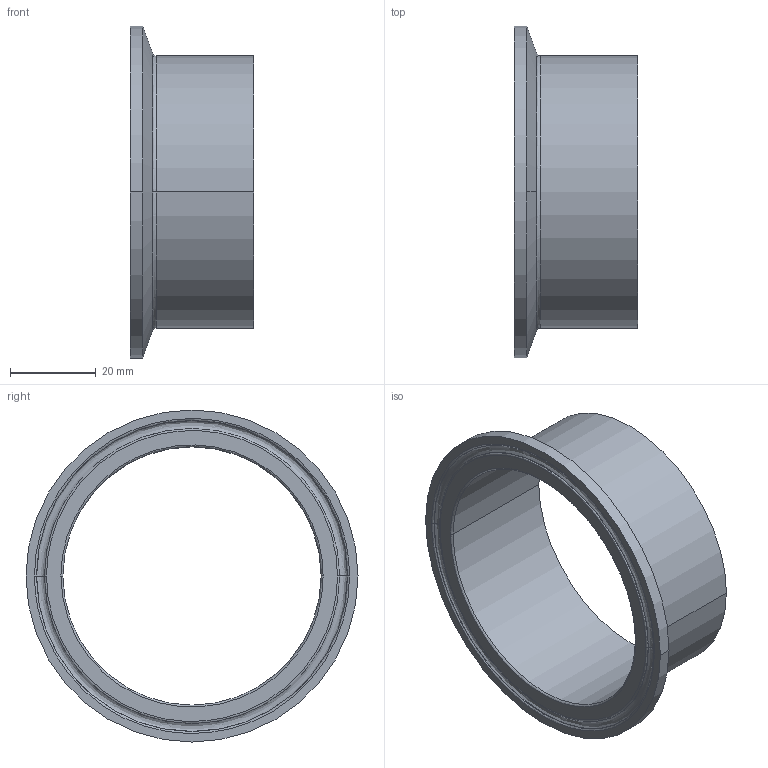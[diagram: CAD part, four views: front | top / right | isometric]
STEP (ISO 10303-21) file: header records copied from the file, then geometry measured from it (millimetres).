
FILE_DESCRIPTION (( 'STEP AP214' ), '1' );
FILE_NAME ('TEG14BM76L2.5.STEP', '2016-05-23T04:08:02', ( 'eran' ), ( '' ), 'SwSTEP 2.0', 'SolidWorks 2016', '' );
FILE_SCHEMA (( 'AUTOMOTIVE_DESIGN' ));
Length unit declared in the file: millimetre
Products named in the file (1): TEG14BM76L2.5
Bounding box: 28.7 x 77.39 x 77.39 mm (x, y, z)
Volume: 15180.5 mm3; surface area: 14647.2 mm2
Topology: 1 solids, 1 shells, 25 faces, 62 edges, 40 vertices
Faces by surface type: bspline 10, cylinder 6, cone 6, plane 3
Entity records: 1471 total; most frequent: CARTESIAN_POINT 846, DIRECTION 132, ORIENTED_EDGE 124, EDGE_CURVE 62, AXIS2_PLACEMENT_3D 60, CIRCLE 44, VERTEX_POINT 40, EDGE_LOOP 28
